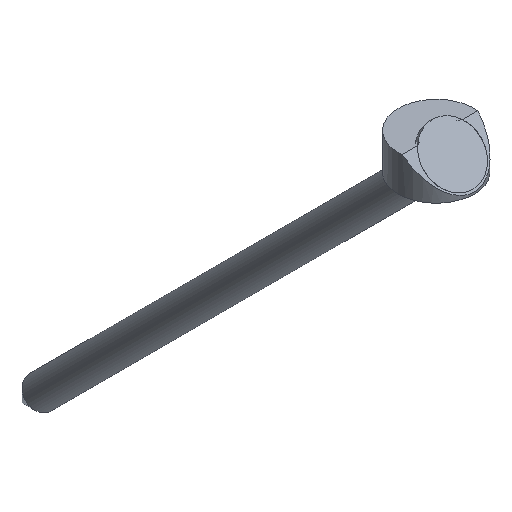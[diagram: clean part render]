
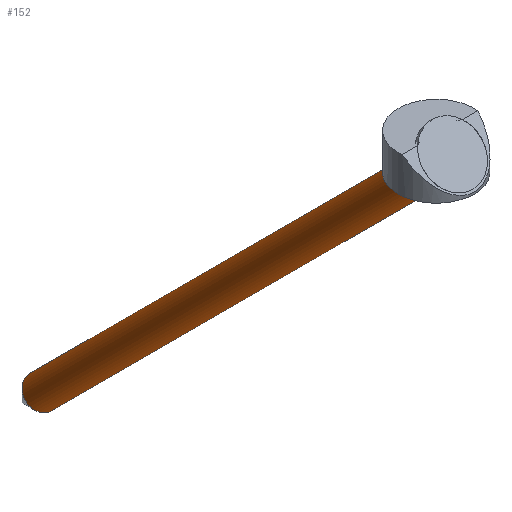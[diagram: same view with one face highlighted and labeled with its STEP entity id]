
A CAD part, isometric view. The second image highlights one B-rep face of the part: STEP entity #152.
In plain terms, the highlighted cylindrical face has radius 4 mm (diameter 8 mm), a full revolution.
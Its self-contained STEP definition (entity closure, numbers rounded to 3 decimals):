
#36=CYLINDRICAL_SURFACE('',#198,4.);
#44=CIRCLE('',#197,4.);
#45=CIRCLE('',#199,4.);
#68=ORIENTED_EDGE('',*,*,#85,.F.);
#69=ORIENTED_EDGE('',*,*,#84,.T.);
#84=EDGE_CURVE('',#95,#95,#44,.T.);
#85=EDGE_CURVE('',#97,#97,#45,.T.);
#95=VERTEX_POINT('',#288);
#97=VERTEX_POINT('',#292);
#115=EDGE_LOOP('',(#68));
#116=EDGE_LOOP('',(#69));
#134=FACE_BOUND('',#115,.T.);
#135=FACE_BOUND('',#116,.T.);
#152=ADVANCED_FACE('',(#134,#135),#36,.T.);
#197=AXIS2_PLACEMENT_3D('',#287,#238,#239);
#198=AXIS2_PLACEMENT_3D('',#290,#240,#241);
#199=AXIS2_PLACEMENT_3D('',#291,#242,#243);
#238=DIRECTION('',(0.,0.,1.));
#239=DIRECTION('',(0.,-1.,0.));
#240=DIRECTION('',(0.,0.,1.));
#241=DIRECTION('',(0.,-1.,0.));
#242=DIRECTION('',(0.,0.,1.));
#243=DIRECTION('',(0.,-1.,0.));
#287=CARTESIAN_POINT('',(0.,0.,-153.072));
#288=CARTESIAN_POINT('',(0.,-4.,-153.072));
#290=CARTESIAN_POINT('',(0.,0.,0.));
#291=CARTESIAN_POINT('',(0.,0.,-4.5));
#292=CARTESIAN_POINT('',(0.,-4.,-4.5));
